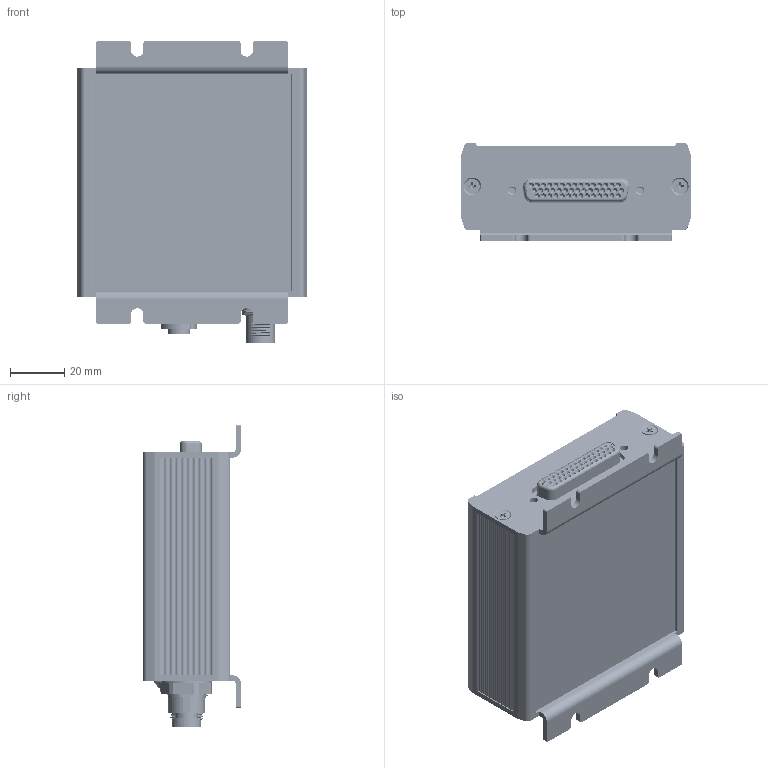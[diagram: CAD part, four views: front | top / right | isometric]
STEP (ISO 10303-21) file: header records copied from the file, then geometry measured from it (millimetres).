
FILE_DESCRIPTION (( 'STEP AP203' ), '1' );
FILE_NAME ('SubD.STEP', '2025-09-25T07:28:59', ( '' ), ( '' ), 'SwSTEP 2.0', 'SolidWorks 2024', '' );
FILE_SCHEMA (( 'CONFIG_CONTROL_DESIGN' ));
Length unit declared in the file: millimetre
Products named in the file (29): 629722000214_Pin3_Bottom; 629722000214_Shielding; NT-2023-00261; 629722000214_Housing; NT-2025-00393; SubD; NT-2023-00260; NT-2022-00230; NT-2025-00394; 629722000214_Pin2_Bottom_mir; 629722000214_Pin2_Top_mir; 629722000214_Pin3_Top; 629722000214_Pin1_Bottom_mir; E-2024-0062-01017_GSV-6T3 CAN SubD44HD; NT-2025-00370; E-2024-0062-00140_SubD 44HD; 629722000214_Shielding2; E-2024-0062-01056_CANbus; 629722000214_Pin1_Bottom; 629722000214_Pin4_Bottom_mir; 629722000214_Pin3_Top_mir; 629722000214_Pin2_Bottom; 629722000214_Pin4_Top; 629722000214_Pin2_Top; countersunk flat head cross recess screw_din_DIN EN ISO 7046-1 - M3 x 4 - Z - 4N; 629722000214_Pin4_Bottom; 629722000214_Pin3_Bottom_mir; 629722000214_Pin1_Top; 629722000214_Pin1_Top_mir
Assembly tree (33 placements, depth 3):
  SubD
    E-2024-0062-01017_GSV-6T3 CAN SubD44HD
    E-2024-0062-00140_SubD 44HD
    E-2024-0062-01056_CANbus
    NT-2025-00370
    NT-2025-00393
      629722000214_Housing
      629722000214_Pin1_Top
      629722000214_Pin4_Bottom
      629722000214_Pin4_Top  x2
      629722000214_Pin1_Bottom
      629722000214_Pin3_Bottom
      629722000214_Pin3_Top
      629722000214_Pin2_Top
      629722000214_Pin2_Bottom
      629722000214_Pin1_Top_mir
      629722000214_Pin1_Bottom_mir
      629722000214_Pin2_Top_mir
      629722000214_Pin2_Bottom_mir
      629722000214_Pin3_Top_mir
      629722000214_Pin3_Bottom_mir
      629722000214_Pin4_Bottom_mir
      629722000214_Shielding2
      629722000214_Shielding
    countersunk flat head cross recess screw_din_DIN EN ISO 7046-1 - M3 x 4 - Z - 4N  x4
    NT-2025-00394
    NT-2023-00260
    NT-2023-00261
    NT-2022-00230  x2
Bounding box: 84.3 x 36 x 111 mm (x, y, z)
Volume: 52566.9 mm3; surface area: 72710.1 mm2
Topology: 31 solids, 50 shells, 6557 faces, 17295 edges, 10984 vertices
Faces by surface type: plane 2452, cylinder 1606, cone 1232, torus 712, bspline 542, sphere 13
Entity records: 227582 total; most frequent: CARTESIAN_POINT 67644, ORIENTED_EDGE 33690, DIRECTION 31949, EDGE_CURVE 16848, AXIS2_PLACEMENT_3D 11900, VERTEX_POINT 10735, VECTOR 8149, LINE 8149
